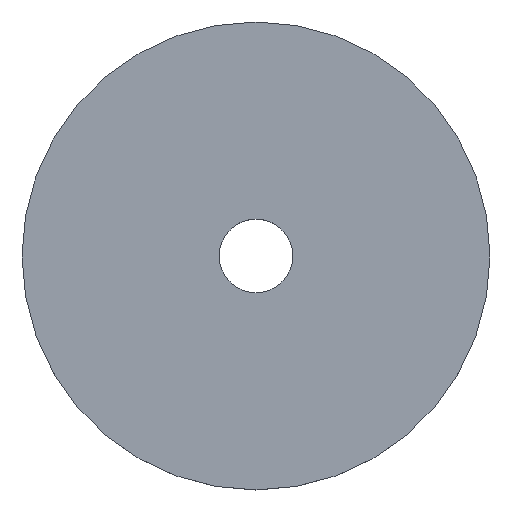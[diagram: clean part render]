
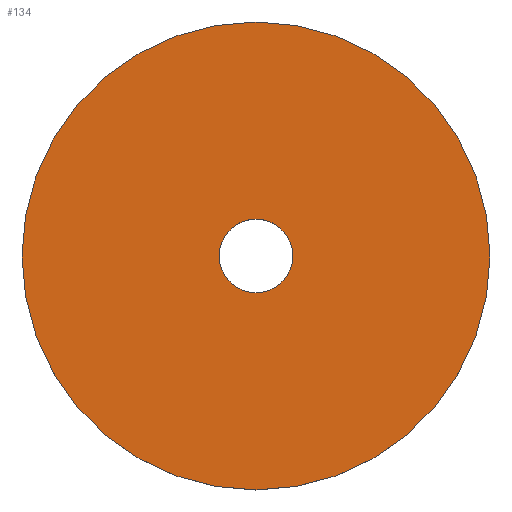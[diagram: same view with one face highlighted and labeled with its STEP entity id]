
A CAD part, top view. The second image highlights one B-rep face of the part: STEP entity #134.
In plain terms, the highlighted planar face has unit normal (0, 0, 1).
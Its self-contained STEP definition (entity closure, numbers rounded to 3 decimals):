
#29=CARTESIAN_POINT('',(0.,0.,0.7));
#30=DIRECTION('',(0.,0.,1.));
#31=DIRECTION('',(1.,0.,0.));
#32=AXIS2_PLACEMENT_3D('',#29,#30,#31);
#34=CARTESIAN_POINT('',(0.,0.,0.7));
#35=DIRECTION('',(0.,0.,1.));
#36=DIRECTION('',(-1.,0.,0.));
#37=AXIS2_PLACEMENT_3D('',#34,#35,#36);
#39=CARTESIAN_POINT('',(0.,0.,0.7));
#40=DIRECTION('',(0.,0.,1.));
#41=DIRECTION('',(1.,0.,0.));
#42=AXIS2_PLACEMENT_3D('',#39,#40,#41);
#44=CARTESIAN_POINT('',(0.,0.,0.7));
#45=DIRECTION('',(0.,0.,1.));
#46=DIRECTION('',(-1.,0.,0.));
#47=AXIS2_PLACEMENT_3D('',#44,#45,#46);
#61=CARTESIAN_POINT('',(6.35,0.,0.7));
#62=CARTESIAN_POINT('',(-6.35,0.,0.7));
#63=VERTEX_POINT('',#61);
#64=VERTEX_POINT('',#62);
#69=CARTESIAN_POINT('',(1.,0.,0.7));
#70=CARTESIAN_POINT('',(-1.,0.,0.7));
#71=VERTEX_POINT('',#69);
#72=VERTEX_POINT('',#70);
#119=CARTESIAN_POINT('',(0.,0.,0.7));
#120=DIRECTION('',(0.,0.,1.));
#121=DIRECTION('',(1.,0.,0.));
#122=AXIS2_PLACEMENT_3D('',#119,#120,#121);
#123=PLANE('',#122);
#124=ORIENTED_EDGE('',*,*,#99,.F.);
#125=ORIENTED_EDGE('',*,*,#113,.F.);
#126=EDGE_LOOP('',(#124,#125));
#127=FACE_OUTER_BOUND('',#126,.F.);
#129=ORIENTED_EDGE('',*,*,#128,.T.);
#131=ORIENTED_EDGE('',*,*,#130,.T.);
#132=EDGE_LOOP('',(#129,#131));
#133=FACE_BOUND('',#132,.F.);
#134=ADVANCED_FACE('',(#127,#133),#123,.T.);
#33=CIRCLE('',#32,6.35);
#38=CIRCLE('',#37,6.35);
#43=CIRCLE('',#42,1.);
#48=CIRCLE('',#47,1.);
#99=EDGE_CURVE('',#63,#64,#33,.T.);
#113=EDGE_CURVE('',#64,#63,#38,.T.);
#128=EDGE_CURVE('',#71,#72,#43,.T.);
#130=EDGE_CURVE('',#72,#71,#48,.T.);
